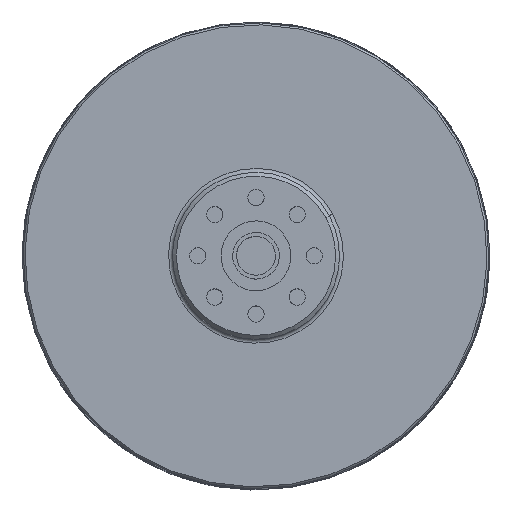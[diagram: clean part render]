
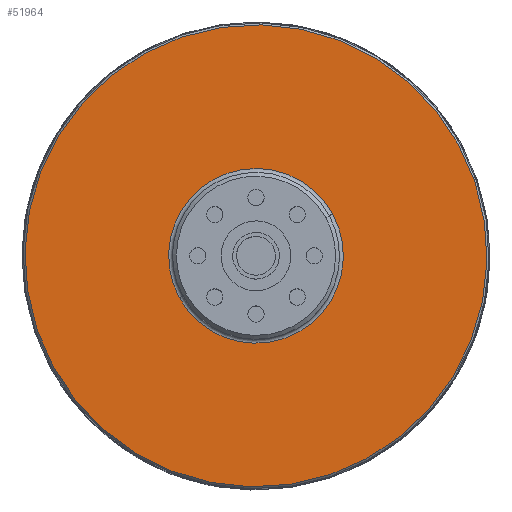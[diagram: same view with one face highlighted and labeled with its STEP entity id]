
A CAD part, top view. The second image highlights one B-rep face of the part: STEP entity #51964.
In plain terms, the highlighted planar face has unit normal (0, 0, 1).
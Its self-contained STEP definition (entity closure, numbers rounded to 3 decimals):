
#545 = VERTEX_POINT ( 'NONE', #95985 ) ;
#6665 = CARTESIAN_POINT ( 'NONE',  ( -52.216, -28.526, 10. ) ) ;
#6881 = CARTESIAN_POINT ( 'NONE',  ( 0., 0., 10. ) ) ;
#7892 = EDGE_CURVE ( 'NONE', #57721, #56760, #34416, .T. ) ;
#8794 = DIRECTION ( 'NONE',  ( 0., 0., 1. ) ) ;
#9961 = AXIS2_PLACEMENT_3D ( 'NONE', #57286, #33686, #67838 ) ;
#15817 = AXIS2_PLACEMENT_3D ( 'NONE', #69385, #8794, #77316 ) ;
#19386 = DIRECTION ( 'NONE',  ( 1., 0., 0. ) ) ;
#23000 = DIRECTION ( 'NONE',  ( 0., 0., 1. ) ) ;
#26614 = VERTEX_POINT ( 'NONE', #47508 ) ;
#27870 = CARTESIAN_POINT ( 'NONE',  ( -59.5, 0., 10. ) ) ;
#30441 = ORIENTED_EDGE ( 'NONE', *, *, #33726, .F. ) ;
#30505 = AXIS2_PLACEMENT_3D ( 'NONE', #27870, #95710, #19386 ) ;
#33686 = DIRECTION ( 'NONE',  ( 0., 0., 1. ) ) ;
#33726 = EDGE_CURVE ( 'NONE', #545, #26614, #58473, .T. ) ;
#34416 = CIRCLE ( 'NONE', #93547, 59.5 ) ;
#42791 = CIRCLE ( 'NONE', #15817, 59.5 ) ;
#43980 = CARTESIAN_POINT ( 'NONE',  ( 52.216, 28.526, 10. ) ) ;
#47508 = CARTESIAN_POINT ( 'NONE',  ( -19.746, -10.787, 10. ) ) ;
#48498 = DIRECTION ( 'NONE',  ( 1., 0., 0. ) ) ;
#50917 = EDGE_CURVE ( 'NONE', #56760, #57721, #42791, .T. ) ;
#51964 = ADVANCED_FACE ( 'NONE', ( #100824, #58273 ), #83969, .T. ) ;
#52594 = ORIENTED_EDGE ( 'NONE', *, *, #50917, .T. ) ;
#56760 = VERTEX_POINT ( 'NONE', #6665 ) ;
#57286 = CARTESIAN_POINT ( 'NONE',  ( 0., 0., 10. ) ) ;
#57721 = VERTEX_POINT ( 'NONE', #43980 ) ;
#58273 = FACE_OUTER_BOUND ( 'NONE', #110450, .T. ) ;
#58473 = CIRCLE ( 'NONE', #9961, 22.5 ) ;
#60432 = CIRCLE ( 'NONE', #108718, 22.5 ) ;
#64530 = CARTESIAN_POINT ( 'NONE',  ( 0., 0., 10. ) ) ;
#67832 = ORIENTED_EDGE ( 'NONE', *, *, #7892, .T. ) ;
#67838 = DIRECTION ( 'NONE',  ( 1., 0., 0. ) ) ;
#69385 = CARTESIAN_POINT ( 'NONE',  ( 0., 0., 10. ) ) ;
#77316 = DIRECTION ( 'NONE',  ( 1., 0., 0. ) ) ;
#83969 = PLANE ( 'NONE',  #30505 ) ;
#93547 = AXIS2_PLACEMENT_3D ( 'NONE', #6881, #99501, #48498 ) ;
#95710 = DIRECTION ( 'NONE',  ( 0., 0., 1. ) ) ;
#95985 = CARTESIAN_POINT ( 'NONE',  ( 19.746, 10.787, 10. ) ) ;
#99447 = EDGE_LOOP ( 'NONE', ( #106288, #30441 ) ) ;
#99501 = DIRECTION ( 'NONE',  ( 0., 0., 1. ) ) ;
#100393 = DIRECTION ( 'NONE',  ( 1., 0., 0. ) ) ;
#100824 = FACE_BOUND ( 'NONE', #99447, .T. ) ;
#106288 = ORIENTED_EDGE ( 'NONE', *, *, #110592, .F. ) ;
#108718 = AXIS2_PLACEMENT_3D ( 'NONE', #64530, #23000, #100393 ) ;
#110450 = EDGE_LOOP ( 'NONE', ( #67832, #52594 ) ) ;
#110592 = EDGE_CURVE ( 'NONE', #26614, #545, #60432, .T. ) ;
